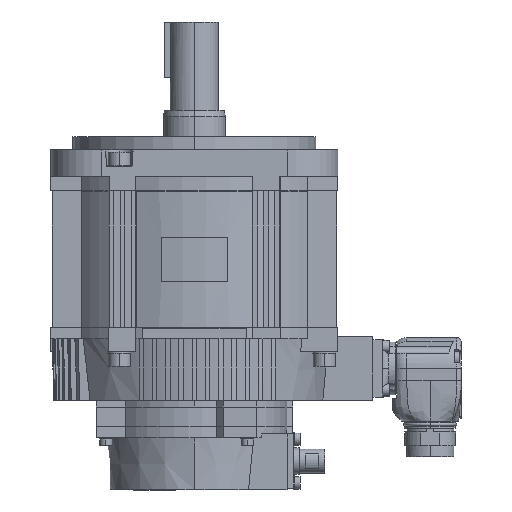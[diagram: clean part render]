
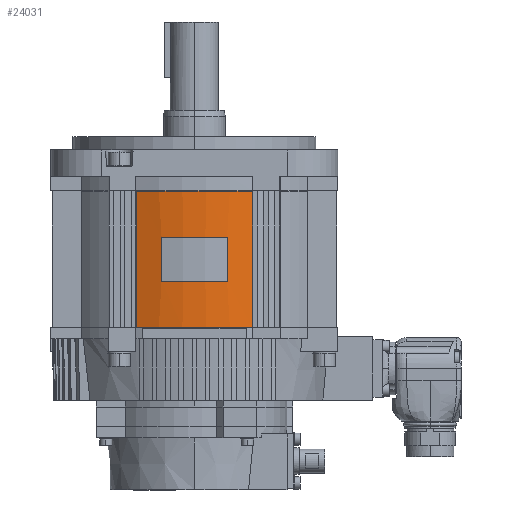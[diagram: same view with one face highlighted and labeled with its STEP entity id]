
A CAD part, left-side view. The second image highlights one B-rep face of the part: STEP entity #24031.
In plain terms, the highlighted cylindrical face has radius 64.3 mm (diameter 128.6 mm), a partial arc.
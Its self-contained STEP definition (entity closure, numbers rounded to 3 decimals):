
#6356 = FACE_OUTER_BOUND ( 'NONE', #24144, .T. ) ;
#6357 = FACE_BOUND ( 'NONE', #24033, .T. ) ;
#6391 = CARTESIAN_POINT ( 'NONE',  ( -62.564, 14.842, -59.45 ) ) ;
#6392 = CARTESIAN_POINT ( 'NONE',  ( -62.564, -14.842, -59.45 ) ) ;
#6393 = CARTESIAN_POINT ( 'NONE',  ( -62.564, -14.842, -39.45 ) ) ;
#6394 = DIRECTION ( 'NONE',  ( 0., 0., -1. ) ) ;
#6395 = VECTOR ( 'NONE', #6394, 1000. ) ;
#6396 = CARTESIAN_POINT ( 'NONE',  ( -62.564, -14.842, -200.368 ) ) ;
#6397 = DIRECTION ( 'NONE',  ( 1., 0., 0. ) ) ;
#6398 = DIRECTION ( 'NONE',  ( 0., 0., 1. ) ) ;
#6399 = AXIS2_PLACEMENT_3D ( 'NONE', #6402, #6398, #6397 ) ;
#6400 = CYLINDRICAL_SURFACE ( 'NONE', #6399, 64.3 ) ;
#6401 = LINE ( 'NONE', #6396, #6395 ) ;
#6402 = CARTESIAN_POINT ( 'NONE',  ( 0., 0., -200.368 ) ) ;
#6495 = CARTESIAN_POINT ( 'NONE',  ( 0., 0., -18.6 ) ) ;
#6496 = CARTESIAN_POINT ( 'NONE',  ( -58.677, -26.297, -18.6 ) ) ;
#6538 = DIRECTION ( 'NONE',  ( 0., 0., 1. ) ) ;
#6539 = VECTOR ( 'NONE', #6538, 1000. ) ;
#6540 = CARTESIAN_POINT ( 'NONE',  ( -58.677, 26.297, -98.906 ) ) ;
#6541 = LINE ( 'NONE', #6540, #6539 ) ;
#6543 = CARTESIAN_POINT ( 'NONE',  ( -58.677, 26.297, -18.6 ) ) ;
#6544 = DIRECTION ( 'NONE',  ( 0., -1., 0. ) ) ;
#6545 = DIRECTION ( 'NONE',  ( 0., 0., -1. ) ) ;
#6546 = AXIS2_PLACEMENT_3D ( 'NONE', #6495, #6545, #6544 ) ;
#6547 = CIRCLE ( 'NONE', #6546, 64.3 ) ;
#6548 = AXIS2_PLACEMENT_3D ( 'NONE', #6609, #6608, #6607 ) ;
#6549 = CIRCLE ( 'NONE', #6548, 64.3 ) ;
#6550 = DIRECTION ( 'NONE',  ( -1., 0., 0. ) ) ;
#6551 = DIRECTION ( 'NONE',  ( 0., 0., -1. ) ) ;
#6552 = CARTESIAN_POINT ( 'NONE',  ( 0., 0., -39.45 ) ) ;
#6553 = AXIS2_PLACEMENT_3D ( 'NONE', #6552, #6551, #6550 ) ;
#6554 = CIRCLE ( 'NONE', #6553, 64.3 ) ;
#6555 = CARTESIAN_POINT ( 'NONE',  ( -62.564, 14.842, -39.45 ) ) ;
#6556 = DIRECTION ( 'NONE',  ( 0., 0., 1. ) ) ;
#6557 = VECTOR ( 'NONE', #6556, 1000. ) ;
#6558 = CARTESIAN_POINT ( 'NONE',  ( -62.564, 14.842, -200.368 ) ) ;
#6559 = LINE ( 'NONE', #6558, #6557 ) ;
#6560 = DIRECTION ( 'NONE',  ( -1., 0., 0. ) ) ;
#6561 = DIRECTION ( 'NONE',  ( 0., 0., -1. ) ) ;
#6562 = CARTESIAN_POINT ( 'NONE',  ( 0., 0., -59.45 ) ) ;
#6563 = AXIS2_PLACEMENT_3D ( 'NONE', #6562, #6561, #6560 ) ;
#6564 = CIRCLE ( 'NONE', #6563, 64.3 ) ;
#6601 = DIRECTION ( 'NONE',  ( 0., 0., 1. ) ) ;
#6602 = VECTOR ( 'NONE', #6601, 1000. ) ;
#6603 = CARTESIAN_POINT ( 'NONE',  ( -58.677, -26.297, -98.906 ) ) ;
#6604 = LINE ( 'NONE', #6603, #6602 ) ;
#6605 = CARTESIAN_POINT ( 'NONE',  ( -58.677, 26.297, -80.3 ) ) ;
#6606 = CARTESIAN_POINT ( 'NONE',  ( -58.677, -26.297, -80.3 ) ) ;
#6607 = DIRECTION ( 'NONE',  ( -1., 0., 0. ) ) ;
#6608 = DIRECTION ( 'NONE',  ( 0., 0., -1. ) ) ;
#6609 = CARTESIAN_POINT ( 'NONE',  ( 0., 0., -80.3 ) ) ;
#24031 = ADVANCED_FACE ( 'NONE', ( #6357, #6356 ), #6400, .T. ) ;
#24033 = EDGE_LOOP ( 'NONE', ( #24034, #24132, #24137, #24142 ) ) ;
#24034 = ORIENTED_EDGE ( 'NONE', *, *, #24035, .T. ) ;
#24035 = EDGE_CURVE ( 'NONE', #24036, #24037, #6401, .T. ) ;
#24036 = VERTEX_POINT ( 'NONE', #6393 ) ;
#24037 = VERTEX_POINT ( 'NONE', #6392 ) ;
#24038 = VERTEX_POINT ( 'NONE', #6391 ) ;
#24106 = VERTEX_POINT ( 'NONE', #6496 ) ;
#24107 = ORIENTED_EDGE ( 'NONE', *, *, #24108, .T. ) ;
#24108 = EDGE_CURVE ( 'NONE', #24106, #24110, #6547, .T. ) ;
#24110 = VERTEX_POINT ( 'NONE', #6543 ) ;
#24111 = ORIENTED_EDGE ( 'NONE', *, *, #24112, .F. ) ;
#24112 = EDGE_CURVE ( 'NONE', #24153, #24110, #6541, .T. ) ;
#24132 = ORIENTED_EDGE ( 'NONE', *, *, #24134, .T. ) ;
#24134 = EDGE_CURVE ( 'NONE', #24037, #24038, #6564, .T. ) ;
#24137 = ORIENTED_EDGE ( 'NONE', *, *, #24139, .T. ) ;
#24139 = EDGE_CURVE ( 'NONE', #24038, #24141, #6559, .T. ) ;
#24141 = VERTEX_POINT ( 'NONE', #6555 ) ;
#24142 = ORIENTED_EDGE ( 'NONE', *, *, #24143, .F. ) ;
#24143 = EDGE_CURVE ( 'NONE', #24036, #24141, #6554, .T. ) ;
#24144 = EDGE_LOOP ( 'NONE', ( #24146, #24154, #24107, #24111 ) ) ;
#24146 = ORIENTED_EDGE ( 'NONE', *, *, #24147, .F. ) ;
#24147 = EDGE_CURVE ( 'NONE', #24150, #24153, #6549, .T. ) ;
#24150 = VERTEX_POINT ( 'NONE', #6606 ) ;
#24153 = VERTEX_POINT ( 'NONE', #6605 ) ;
#24154 = ORIENTED_EDGE ( 'NONE', *, *, #24155, .T. ) ;
#24155 = EDGE_CURVE ( 'NONE', #24150, #24106, #6604, .T. ) ;
